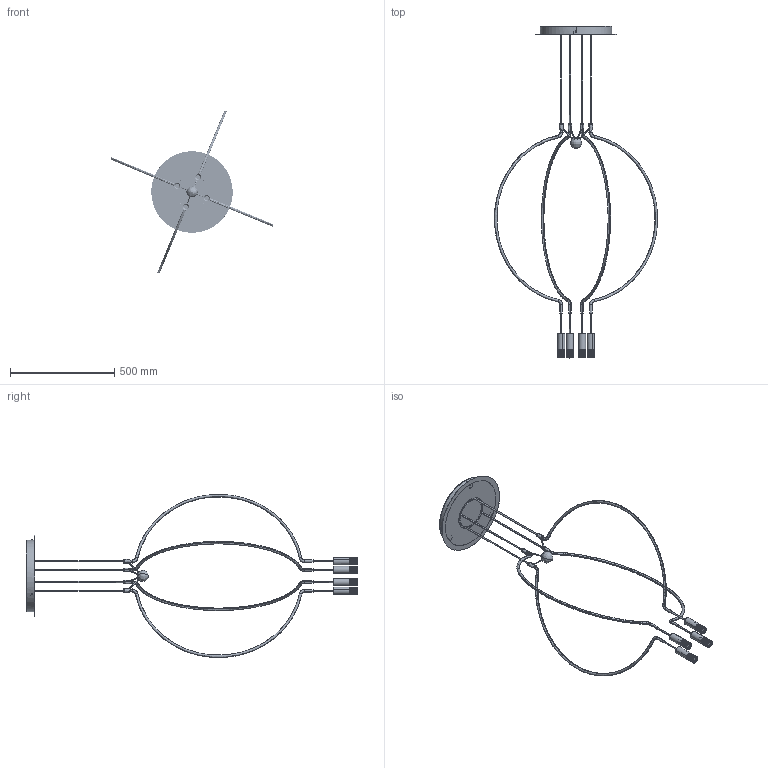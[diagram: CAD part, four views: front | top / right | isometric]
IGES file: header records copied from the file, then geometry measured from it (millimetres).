
Start section: SolidWorks IGES file using analytic representation for surfaces
Global section: file name: \\STORAGE\Tecnico Condiviso\1 FASCICOLI TECNICI\AXO DESIGN\AXO058-LIAISON\AXO01 Liaison - Fascicolo Tecnico 2018-11-20\AXO01.LS12 SO100 8 Luci\1.0A.AXO01.LS12.A1-3D\PSM Celada\SPLIAIM4XXXXLED-PER 3D.IGS; native system: SolidWorks 2019; preprocessor: SolidWorks 2019; author: tecnico3; date: 191123.115831; units: millimetre
Bounding box: 781.59 x 1589.45 x 781.59 mm (x, y, z)
Volume: 1122019.8 mm3; surface area: 1186361.9 mm2
Topology: 76 solids, 76 shells, 2400 faces, 6352 edges, 4053 vertices
Faces by surface type: bspline 2400
